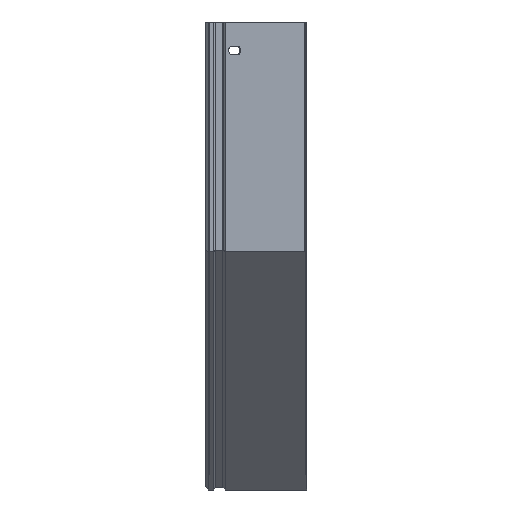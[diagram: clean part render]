
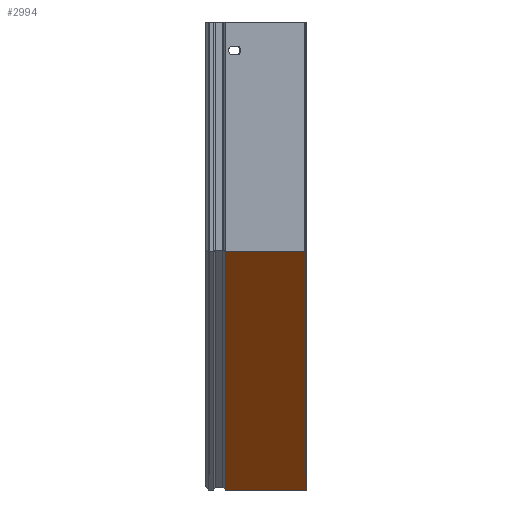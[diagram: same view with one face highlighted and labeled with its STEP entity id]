
A CAD part, left-side view. The second image highlights one B-rep face of the part: STEP entity #2994.
In plain terms, the highlighted planar face has unit normal (-0.707, 0, -0.707).
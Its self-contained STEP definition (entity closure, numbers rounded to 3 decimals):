
#142 = CARTESIAN_POINT ( 'NONE',  ( -226., -1., 0. ) ) ;
#233 = DIRECTION ( 'NONE',  ( 0., -1., 0. ) ) ;
#246 = DIRECTION ( 'NONE',  ( 0.707, 0., -0.707 ) ) ;
#330 = LINE ( 'NONE', #1110, #3785 ) ;
#456 = VERTEX_POINT ( 'NONE', #3479 ) ;
#568 = CARTESIAN_POINT ( 'NONE',  ( -460.759, -1., 234.759 ) ) ;
#660 = VERTEX_POINT ( 'NONE', #568 ) ;
#979 = EDGE_CURVE ( 'NONE', #456, #3086, #4942, .T. ) ;
#991 = VECTOR ( 'NONE', #1425, 1000. ) ;
#1071 = CARTESIAN_POINT ( 'NONE',  ( -226., 79.5, 0. ) ) ;
#1110 = CARTESIAN_POINT ( 'NONE',  ( -226., 0., 0. ) ) ;
#1140 = EDGE_CURVE ( 'NONE', #5431, #660, #4755, .T. ) ;
#1224 = PLANE ( 'NONE',  #1916 ) ;
#1425 = DIRECTION ( 'NONE',  ( -0.707, 0., 0.707 ) ) ;
#1903 = LINE ( 'NONE', #5024, #3131 ) ;
#1916 = AXIS2_PLACEMENT_3D ( 'NONE', #2977, #4192, #246 ) ;
#1997 = DIRECTION ( 'NONE',  ( 0., 1., 0. ) ) ;
#2003 = VECTOR ( 'NONE', #4215, 1000. ) ;
#2072 = ORIENTED_EDGE ( 'NONE', *, *, #5086, .F. ) ;
#2977 = CARTESIAN_POINT ( 'NONE',  ( -226., 0., 0. ) ) ;
#2994 = ADVANCED_FACE ( 'NONE', ( #3417 ), #1224, .F. ) ;
#3086 = VERTEX_POINT ( 'NONE', #3150 ) ;
#3131 = VECTOR ( 'NONE', #233, 1000. ) ;
#3150 = CARTESIAN_POINT ( 'NONE',  ( -460.759, 79.5, 234.759 ) ) ;
#3417 = FACE_OUTER_BOUND ( 'NONE', #4913, .T. ) ;
#3449 = ORIENTED_EDGE ( 'NONE', *, *, #5432, .F. ) ;
#3479 = CARTESIAN_POINT ( 'NONE',  ( -226., 79.5, 0. ) ) ;
#3759 = CARTESIAN_POINT ( 'NONE',  ( -226., -1., 0. ) ) ;
#3785 = VECTOR ( 'NONE', #1997, 1000. ) ;
#4192 = DIRECTION ( 'NONE',  ( 0.707, 0., 0.707 ) ) ;
#4215 = DIRECTION ( 'NONE',  ( -0.707, 0., 0.707 ) ) ;
#4755 = LINE ( 'NONE', #3759, #2003 ) ;
#4913 = EDGE_LOOP ( 'NONE', ( #3449, #5174, #2072, #5697 ) ) ;
#4942 = LINE ( 'NONE', #1071, #991 ) ;
#5024 = CARTESIAN_POINT ( 'NONE',  ( -460.759, 0., 234.759 ) ) ;
#5086 = EDGE_CURVE ( 'NONE', #5431, #456, #330, .T. ) ;
#5174 = ORIENTED_EDGE ( 'NONE', *, *, #979, .F. ) ;
#5431 = VERTEX_POINT ( 'NONE', #142 ) ;
#5432 = EDGE_CURVE ( 'NONE', #3086, #660, #1903, .T. ) ;
#5697 = ORIENTED_EDGE ( 'NONE', *, *, #1140, .T. ) ;
